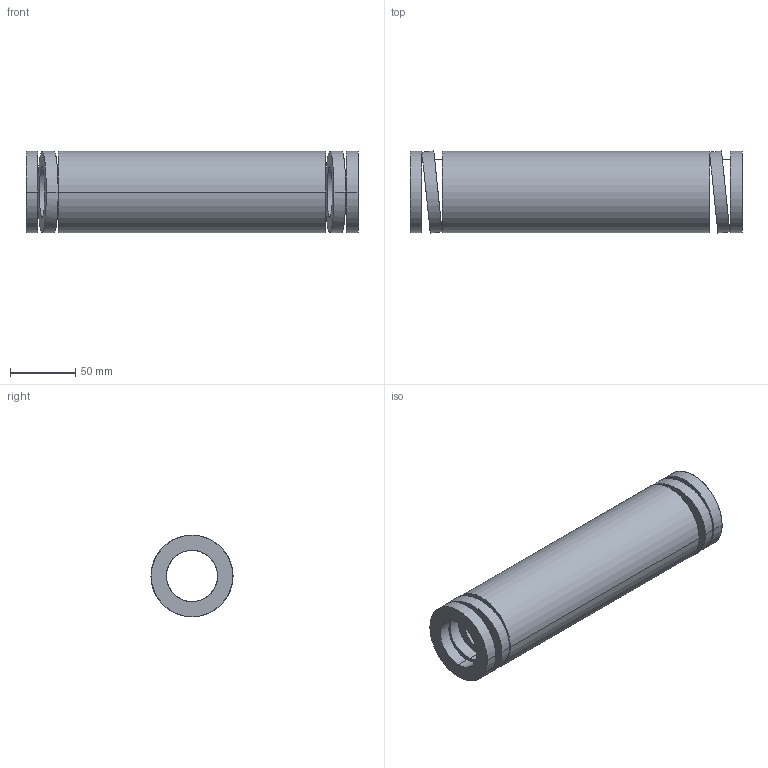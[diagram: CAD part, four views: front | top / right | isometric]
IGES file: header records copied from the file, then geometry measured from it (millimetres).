
Start section: START RECORD GO HERE.
Global section: file name: 392-B63-254.igs; native system: DASSAULT SYSTEMES CATIA V5 R20 - www.3ds.com; preprocessor: CATIA Version 5 Release 20 ; author: Utente; organization: NB04-ASUS; date: 20210813.134254; units: millimetre
Bounding box: 254 x 62.8 x 62.2 mm (x, y, z)
Surface area: 95007.4 mm2 (no closed solid volume)
Topology: 0 solids, 0 shells, 38 faces, 184 edges, 184 vertices
Faces by surface type: revolution 28, plane 10
